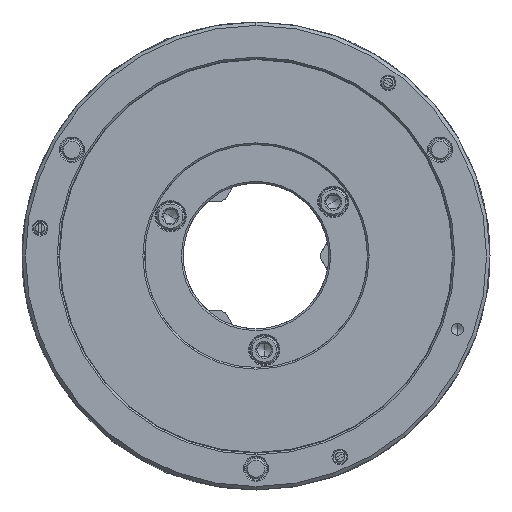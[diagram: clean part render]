
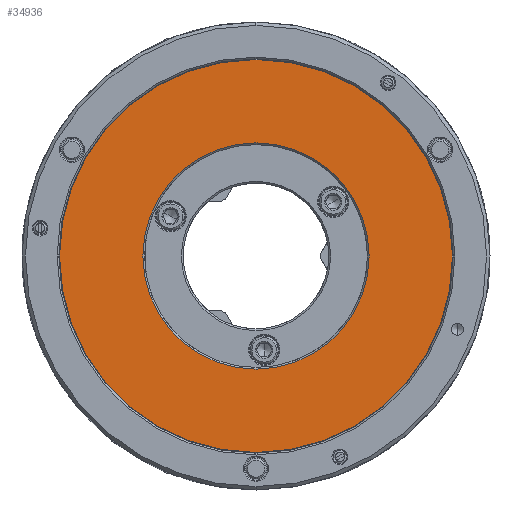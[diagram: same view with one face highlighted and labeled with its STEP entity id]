
A CAD part, left-side view. The second image highlights one B-rep face of the part: STEP entity #34936.
In plain terms, the highlighted planar face has unit normal (-1, 0, 0).
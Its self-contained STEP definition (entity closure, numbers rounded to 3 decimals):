
#194 = FACE_BOUND ( 'NONE', #14433, .T. ) ;
#848 = EDGE_CURVE ( 'NONE', #49800, #23067, #28506, .T. ) ;
#1550 = DIRECTION ( 'NONE',  ( 1., 0., 0. ) ) ;
#2932 = AXIS2_PLACEMENT_3D ( 'NONE', #22360, #34532, #14348 ) ;
#4853 = DIRECTION ( 'NONE',  ( -1., 0., 0. ) ) ;
#8181 = DIRECTION ( 'NONE',  ( 0., 0., 1. ) ) ;
#8729 = PLANE ( 'NONE',  #36090 ) ;
#12058 = CARTESIAN_POINT ( 'NONE',  ( -80., 0., 66. ) ) ;
#12178 = AXIS2_PLACEMENT_3D ( 'NONE', #30005, #1550, #21218 ) ;
#13885 = CARTESIAN_POINT ( 'NONE',  ( -80., 0., -114.6 ) ) ;
#14348 = DIRECTION ( 'NONE',  ( 0., 0., 1. ) ) ;
#14433 = EDGE_LOOP ( 'NONE', ( #49901, #27585 ) ) ;
#14663 = CIRCLE ( 'NONE', #12178, 114.6 ) ;
#16223 = FACE_OUTER_BOUND ( 'NONE', #22237, .T. ) ;
#16997 = DIRECTION ( 'NONE',  ( 0., 0., -1. ) ) ;
#17262 = CARTESIAN_POINT ( 'NONE',  ( -80., 0., -66. ) ) ;
#21218 = DIRECTION ( 'NONE',  ( 0., 0., 1. ) ) ;
#22237 = EDGE_LOOP ( 'NONE', ( #46877, #42870 ) ) ;
#22360 = CARTESIAN_POINT ( 'NONE',  ( -80., 0., 0. ) ) ;
#22958 = CARTESIAN_POINT ( 'NONE',  ( -80., 0., 0. ) ) ;
#23067 = VERTEX_POINT ( 'NONE', #13885 ) ;
#24251 = DIRECTION ( 'NONE',  ( 1., 0., 0. ) ) ;
#27585 = ORIENTED_EDGE ( 'NONE', *, *, #27793, .T. ) ;
#27793 = EDGE_CURVE ( 'NONE', #40963, #39511, #50949, .T. ) ;
#28506 = CIRCLE ( 'NONE', #2932, 114.6 ) ;
#30005 = CARTESIAN_POINT ( 'NONE',  ( -80., 0., 0. ) ) ;
#31101 = AXIS2_PLACEMENT_3D ( 'NONE', #22958, #34856, #8181 ) ;
#34532 = DIRECTION ( 'NONE',  ( 1., 0., 0. ) ) ;
#34856 = DIRECTION ( 'NONE',  ( 1., 0., 0. ) ) ;
#34936 = ADVANCED_FACE ( 'NONE', ( #194, #16223 ), #8729, .T. ) ;
#35221 = AXIS2_PLACEMENT_3D ( 'NONE', #47294, #24251, #43157 ) ;
#35642 = CARTESIAN_POINT ( 'NONE',  ( -80., -114.6, 0. ) ) ;
#36090 = AXIS2_PLACEMENT_3D ( 'NONE', #35642, #4853, #16997 ) ;
#39511 = VERTEX_POINT ( 'NONE', #17262 ) ;
#40963 = VERTEX_POINT ( 'NONE', #12058 ) ;
#42870 = ORIENTED_EDGE ( 'NONE', *, *, #47494, .F. ) ;
#43157 = DIRECTION ( 'NONE',  ( 0., 0., 1. ) ) ;
#43714 = EDGE_CURVE ( 'NONE', #39511, #40963, #49301, .T. ) ;
#46877 = ORIENTED_EDGE ( 'NONE', *, *, #848, .F. ) ;
#47294 = CARTESIAN_POINT ( 'NONE',  ( -80., 0., 0. ) ) ;
#47494 = EDGE_CURVE ( 'NONE', #23067, #49800, #14663, .T. ) ;
#48630 = CARTESIAN_POINT ( 'NONE',  ( -80., 0., 114.6 ) ) ;
#49301 = CIRCLE ( 'NONE', #35221, 66. ) ;
#49800 = VERTEX_POINT ( 'NONE', #48630 ) ;
#49901 = ORIENTED_EDGE ( 'NONE', *, *, #43714, .T. ) ;
#50949 = CIRCLE ( 'NONE', #31101, 66. ) ;
